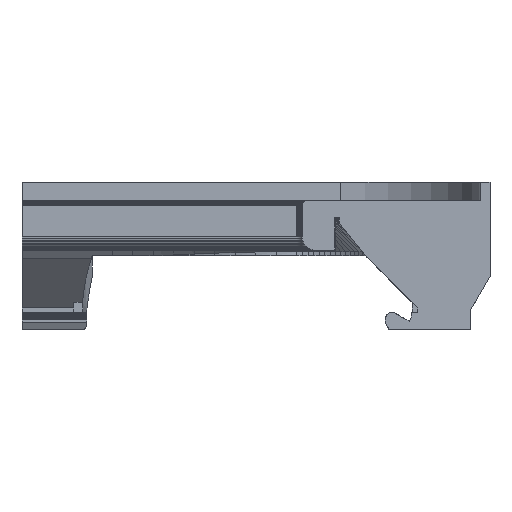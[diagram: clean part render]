
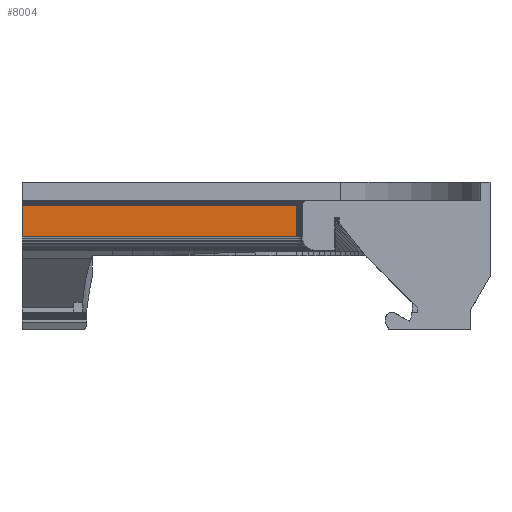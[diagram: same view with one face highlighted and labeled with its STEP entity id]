
A CAD part, front view. The second image highlights one B-rep face of the part: STEP entity #8004.
In plain terms, the highlighted planar face has unit normal (0, -1, 0).
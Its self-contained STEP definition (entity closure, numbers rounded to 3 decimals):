
#32 = PLANE('',#33);
#33 = AXIS2_PLACEMENT_3D('',#34,#35,#36);
#34 = CARTESIAN_POINT('',(110.,70.,-0.1));
#35 = DIRECTION('',(1.,0.,-0.));
#36 = DIRECTION('',(0.,0.,1.));
#367 = VERTEX_POINT('',#368);
#368 = CARTESIAN_POINT('',(110.,145.,22.7));
#381 = PLANE('',#382);
#382 = AXIS2_PLACEMENT_3D('',#383,#384,#385);
#383 = CARTESIAN_POINT('',(-160.,145.,22.7));
#384 = DIRECTION('',(0.,-0.998,0.065));
#385 = DIRECTION('',(0.,0.065,0.998));
#392 = EDGE_CURVE('',#367,#393,#395,.T.);
#393 = VERTEX_POINT('',#394);
#394 = CARTESIAN_POINT('',(110.,145.,17.));
#395 = SURFACE_CURVE('',#396,(#400,#406),.PCURVE_S1.);
#396 = LINE('',#397,#398);
#397 = CARTESIAN_POINT('',(110.,145.,8.45));
#398 = VECTOR('',#399,1.);
#399 = DIRECTION('',(0.,-0.,-1.));
#400 = PCURVE('',#32,#401);
#401 = DEFINITIONAL_REPRESENTATION('',(#402),#405);
#402 = B_SPLINE_CURVE_WITH_KNOTS('',1,(#403,#404),.UNSPECIFIED.,.F.,.F.,
  (2,2),(-14.25,-8.55),.PIECEWISE_BEZIER_KNOTS.);
#403 = CARTESIAN_POINT('',(22.8,-75.));
#404 = CARTESIAN_POINT('',(17.1,-75.));
#405 = ( GEOMETRIC_REPRESENTATION_CONTEXT(2) 
PARAMETRIC_REPRESENTATION_CONTEXT() REPRESENTATION_CONTEXT('2D SPACE',''
  ) );
#406 = PCURVE('',#407,#412);
#407 = PLANE('',#408);
#408 = AXIS2_PLACEMENT_3D('',#409,#410,#411);
#409 = CARTESIAN_POINT('',(-160.,145.,17.));
#410 = DIRECTION('',(0.,-1.,0.));
#411 = DIRECTION('',(0.,0.,1.));
#412 = DEFINITIONAL_REPRESENTATION('',(#413),#416);
#413 = B_SPLINE_CURVE_WITH_KNOTS('',1,(#414,#415),.UNSPECIFIED.,.F.,.F.,
  (2,2),(-14.25,-8.55),.PIECEWISE_BEZIER_KNOTS.);
#414 = CARTESIAN_POINT('',(5.7,-270.));
#415 = CARTESIAN_POINT('',(0.,-270.));
#416 = ( GEOMETRIC_REPRESENTATION_CONTEXT(2) 
PARAMETRIC_REPRESENTATION_CONTEXT() REPRESENTATION_CONTEXT('2D SPACE',''
  ) );
#433 = PLANE('',#434);
#434 = AXIS2_PLACEMENT_3D('',#435,#436,#437);
#435 = CARTESIAN_POINT('',(-160.,145.021,16.674));
#436 = DIRECTION('',(-0.,-0.998,-0.065));
#437 = DIRECTION('',(0.,-0.065,0.998));
#7954 = EDGE_CURVE('',#393,#7955,#7957,.T.);
#7955 = VERTEX_POINT('',#7956);
#7956 = CARTESIAN_POINT('',(160.,145.,17.));
#7957 = SURFACE_CURVE('',#7958,(#7962,#7969),.PCURVE_S1.);
#7958 = LINE('',#7959,#7960);
#7959 = CARTESIAN_POINT('',(-160.,145.,17.));
#7960 = VECTOR('',#7961,1.);
#7961 = DIRECTION('',(1.,0.,0.));
#7962 = PCURVE('',#433,#7963);
#7963 = DEFINITIONAL_REPRESENTATION('',(#7964),#7968);
#7964 = LINE('',#7965,#7966);
#7965 = CARTESIAN_POINT('',(0.327,0.));
#7966 = VECTOR('',#7967,1.);
#7967 = DIRECTION('',(0.,-1.));
#7968 = ( GEOMETRIC_REPRESENTATION_CONTEXT(2) 
PARAMETRIC_REPRESENTATION_CONTEXT() REPRESENTATION_CONTEXT('2D SPACE',''
  ) );
#7969 = PCURVE('',#407,#7970);
#7970 = DEFINITIONAL_REPRESENTATION('',(#7971),#7975);
#7971 = LINE('',#7972,#7973);
#7972 = CARTESIAN_POINT('',(0.,0.));
#7973 = VECTOR('',#7974,1.);
#7974 = DIRECTION('',(0.,-1.));
#7975 = ( GEOMETRIC_REPRESENTATION_CONTEXT(2) 
PARAMETRIC_REPRESENTATION_CONTEXT() REPRESENTATION_CONTEXT('2D SPACE',''
  ) );
#8004 = ADVANCED_FACE('',(#8005),#407,.T.);
#8005 = FACE_BOUND('',#8006,.T.);
#8006 = EDGE_LOOP('',(#8007,#8030,#8031,#8032));
#8007 = ORIENTED_EDGE('',*,*,#8008,.F.);
#8008 = EDGE_CURVE('',#367,#8009,#8011,.T.);
#8009 = VERTEX_POINT('',#8010);
#8010 = CARTESIAN_POINT('',(160.,145.,22.7));
#8011 = SURFACE_CURVE('',#8012,(#8016,#8023),.PCURVE_S1.);
#8012 = LINE('',#8013,#8014);
#8013 = CARTESIAN_POINT('',(-160.,145.,22.7));
#8014 = VECTOR('',#8015,1.);
#8015 = DIRECTION('',(1.,0.,0.));
#8016 = PCURVE('',#407,#8017);
#8017 = DEFINITIONAL_REPRESENTATION('',(#8018),#8022);
#8018 = LINE('',#8019,#8020);
#8019 = CARTESIAN_POINT('',(5.7,0.));
#8020 = VECTOR('',#8021,1.);
#8021 = DIRECTION('',(0.,-1.));
#8022 = ( GEOMETRIC_REPRESENTATION_CONTEXT(2) 
PARAMETRIC_REPRESENTATION_CONTEXT() REPRESENTATION_CONTEXT('2D SPACE',''
  ) );
#8023 = PCURVE('',#381,#8024);
#8024 = DEFINITIONAL_REPRESENTATION('',(#8025),#8029);
#8025 = LINE('',#8026,#8027);
#8026 = CARTESIAN_POINT('',(0.,0.));
#8027 = VECTOR('',#8028,1.);
#8028 = DIRECTION('',(0.,-1.));
#8029 = ( GEOMETRIC_REPRESENTATION_CONTEXT(2) 
PARAMETRIC_REPRESENTATION_CONTEXT() REPRESENTATION_CONTEXT('2D SPACE',''
  ) );
#8030 = ORIENTED_EDGE('',*,*,#392,.T.);
#8031 = ORIENTED_EDGE('',*,*,#7954,.T.);
#8032 = ORIENTED_EDGE('',*,*,#8033,.T.);
#8033 = EDGE_CURVE('',#7955,#8009,#8034,.T.);
#8034 = SURFACE_CURVE('',#8035,(#8039,#8046),.PCURVE_S1.);
#8035 = LINE('',#8036,#8037);
#8036 = CARTESIAN_POINT('',(160.,145.,17.));
#8037 = VECTOR('',#8038,1.);
#8038 = DIRECTION('',(0.,0.,1.));
#8039 = PCURVE('',#407,#8040);
#8040 = DEFINITIONAL_REPRESENTATION('',(#8041),#8045);
#8041 = LINE('',#8042,#8043);
#8042 = CARTESIAN_POINT('',(0.,-320.));
#8043 = VECTOR('',#8044,1.);
#8044 = DIRECTION('',(1.,0.));
#8045 = ( GEOMETRIC_REPRESENTATION_CONTEXT(2) 
PARAMETRIC_REPRESENTATION_CONTEXT() REPRESENTATION_CONTEXT('2D SPACE',''
  ) );
#8046 = PCURVE('',#8047,#8052);
#8047 = PLANE('',#8048);
#8048 = AXIS2_PLACEMENT_3D('',#8049,#8050,#8051);
#8049 = CARTESIAN_POINT('',(160.,145.,17.));
#8050 = DIRECTION('',(-0.033,-0.999,0.));
#8051 = DIRECTION('',(0.,0.,1.));
#8052 = DEFINITIONAL_REPRESENTATION('',(#8053),#8057);
#8053 = LINE('',#8054,#8055);
#8054 = CARTESIAN_POINT('',(0.,0.));
#8055 = VECTOR('',#8056,1.);
#8056 = DIRECTION('',(1.,0.));
#8057 = ( GEOMETRIC_REPRESENTATION_CONTEXT(2) 
PARAMETRIC_REPRESENTATION_CONTEXT() REPRESENTATION_CONTEXT('2D SPACE',''
  ) );
